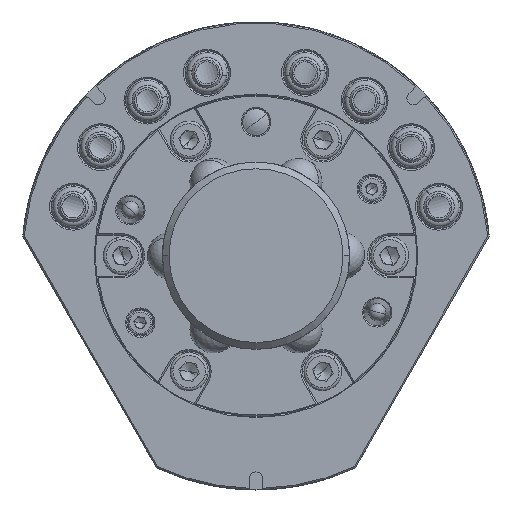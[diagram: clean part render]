
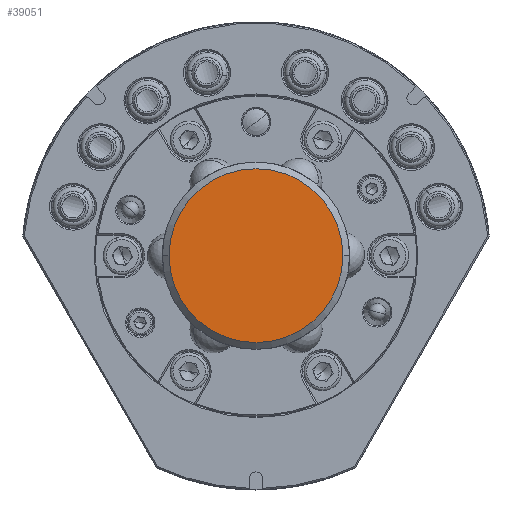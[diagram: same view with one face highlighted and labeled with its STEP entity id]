
A CAD part, top view. The second image highlights one B-rep face of the part: STEP entity #39051.
In plain terms, the highlighted planar face has unit normal (0, 0, 1).
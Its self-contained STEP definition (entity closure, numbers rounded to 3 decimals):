
#4624 = CARTESIAN_POINT ( 'NONE',  ( 0., 0., 0. ) ) ;
#4852 = DIRECTION ( 'NONE',  ( 0., 0., 1. ) ) ;
#10426 = CARTESIAN_POINT ( 'NONE',  ( 0., 0., 0. ) ) ;
#11284 = DIRECTION ( 'NONE',  ( -1., 0., 0. ) ) ;
#17407 = DIRECTION ( 'NONE',  ( -1., 0., 0. ) ) ;
#18438 = ORIENTED_EDGE ( 'NONE', *, *, #70150, .T. ) ;
#24550 = AXIS2_PLACEMENT_3D ( 'NONE', #10426, #57165, #17407 ) ;
#31789 = CIRCLE ( 'NONE', #68980, 19.5 ) ;
#37937 = VERTEX_POINT ( 'NONE', #39676 ) ;
#39051 = ADVANCED_FACE ( 'NONE', ( #59532 ), #50528, .F. ) ;
#39279 = ORIENTED_EDGE ( 'NONE', *, *, #57501, .T. ) ;
#39676 = CARTESIAN_POINT ( 'NONE',  ( 19.5, 0., 0. ) ) ;
#44649 = CARTESIAN_POINT ( 'NONE',  ( 0., 0., 0. ) ) ;
#50528 = PLANE ( 'NONE',  #24550 ) ;
#51096 = DIRECTION ( 'NONE',  ( 0., 0., 1. ) ) ;
#51339 = DIRECTION ( 'NONE',  ( -1., 0., 0. ) ) ;
#57165 = DIRECTION ( 'NONE',  ( 0., 0., -1. ) ) ;
#57501 = EDGE_CURVE ( 'NONE', #74232, #37937, #31789, .T. ) ;
#59532 = FACE_OUTER_BOUND ( 'NONE', #70448, .T. ) ;
#61719 = AXIS2_PLACEMENT_3D ( 'NONE', #44649, #4852, #51339 ) ;
#68980 = AXIS2_PLACEMENT_3D ( 'NONE', #4624, #51096, #11284 ) ;
#70150 = EDGE_CURVE ( 'NONE', #37937, #74232, #76377, .T. ) ;
#70448 = EDGE_LOOP ( 'NONE', ( #39279, #18438 ) ) ;
#74232 = VERTEX_POINT ( 'NONE', #80045 ) ;
#76377 = CIRCLE ( 'NONE', #61719, 19.5 ) ;
#80045 = CARTESIAN_POINT ( 'NONE',  ( -19.5, 0., 0. ) ) ;
